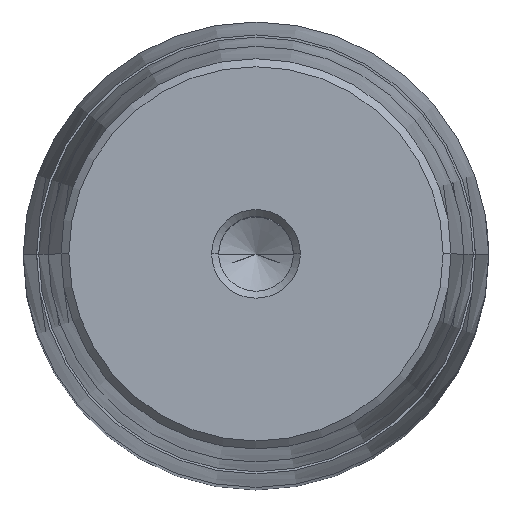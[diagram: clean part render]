
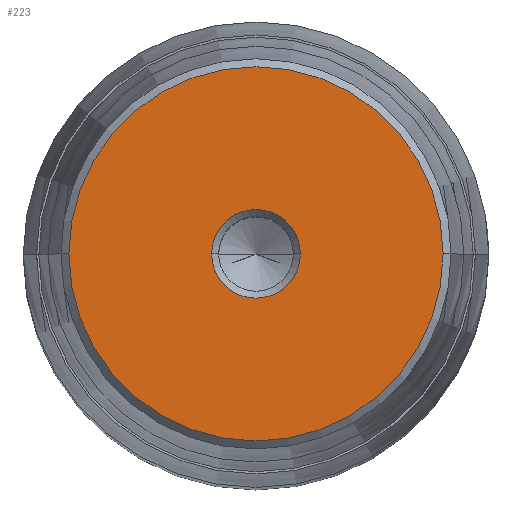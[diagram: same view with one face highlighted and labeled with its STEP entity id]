
A CAD part, top view. The second image highlights one B-rep face of the part: STEP entity #223.
In plain terms, the highlighted planar face has unit normal (0, 0, 1).
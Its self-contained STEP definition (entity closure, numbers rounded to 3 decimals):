
#148=CARTESIAN_POINT('Axis2P3D Location',(0.,0.,69.)) ;
#152=CARTESIAN_POINT('Vertex',(-6.,0.,69.)) ;
#154=CARTESIAN_POINT('Vertex',(6.,0.,69.)) ;
#191=CARTESIAN_POINT('Axis2P3D Location',(0.,6.,69.)) ;
#196=CARTESIAN_POINT('Axis2P3D Location',(0.,0.,69.)) ;
#200=CARTESIAN_POINT('Vertex',(-25.325,0.,69.)) ;
#202=CARTESIAN_POINT('Vertex',(25.325,0.,69.)) ;
#205=CARTESIAN_POINT('Axis2P3D Location',(0.,0.,69.)) ;
#214=CARTESIAN_POINT('Axis2P3D Location',(0.,0.,69.)) ;
#149=DIRECTION('Axis2P3D Direction',(0.,-0.,1.)) ;
#192=DIRECTION('Axis2P3D Direction',(0.,0.,-1.)) ;
#193=DIRECTION('Axis2P3D XDirection',(-1.,0.,0.)) ;
#197=DIRECTION('Axis2P3D Direction',(0.,0.,-1.)) ;
#206=DIRECTION('Axis2P3D Direction',(0.,0.,-1.)) ;
#215=DIRECTION('Axis2P3D Direction',(0.,0.,-1.)) ;
#150=AXIS2_PLACEMENT_3D('Circle Axis2P3D',#148,#149,$) ;
#194=AXIS2_PLACEMENT_3D('Plane Axis2P3D',#191,#192,#193) ;
#198=AXIS2_PLACEMENT_3D('Circle Axis2P3D',#196,#197,$) ;
#207=AXIS2_PLACEMENT_3D('Circle Axis2P3D',#205,#206,$) ;
#216=AXIS2_PLACEMENT_3D('Circle Axis2P3D',#214,#215,$) ;
#211=ORIENTED_EDGE('',*,*,#204,.F.) ;
#212=ORIENTED_EDGE('',*,*,#209,.F.) ;
#220=ORIENTED_EDGE('',*,*,#218,.T.) ;
#221=ORIENTED_EDGE('',*,*,#156,.T.) ;
#222=FACE_BOUND('',#219,.T.) ;
#223=ADVANCED_FACE('722-63x224x275',(#213,#222),#195,.F.) ;
#151=CIRCLE('generated circle',#150,6.) ;
#199=CIRCLE('generated circle',#198,25.325) ;
#208=CIRCLE('generated circle',#207,25.325) ;
#217=CIRCLE('generated circle',#216,6.) ;
#156=EDGE_CURVE('',#153,#155,#151,.F.) ;
#204=EDGE_CURVE('',#201,#203,#199,.T.) ;
#209=EDGE_CURVE('',#203,#201,#208,.T.) ;
#218=EDGE_CURVE('',#155,#153,#217,.T.) ;
#210=EDGE_LOOP('',(#211,#212)) ;
#219=EDGE_LOOP('',(#220,#221)) ;
#213=FACE_OUTER_BOUND('',#210,.T.) ;
#195=PLANE('Plane',#194) ;
#153=VERTEX_POINT('',#152) ;
#155=VERTEX_POINT('',#154) ;
#201=VERTEX_POINT('',#200) ;
#203=VERTEX_POINT('',#202) ;
